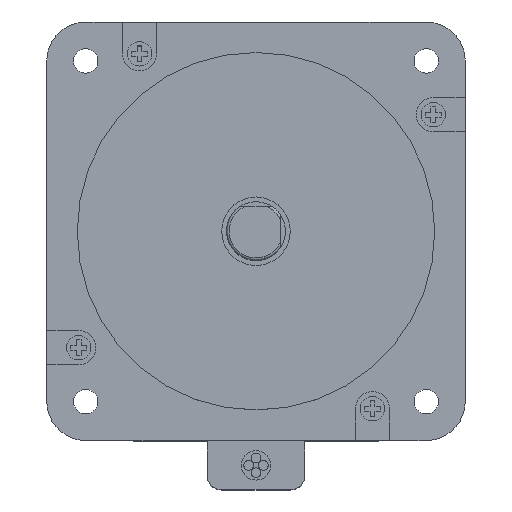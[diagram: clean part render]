
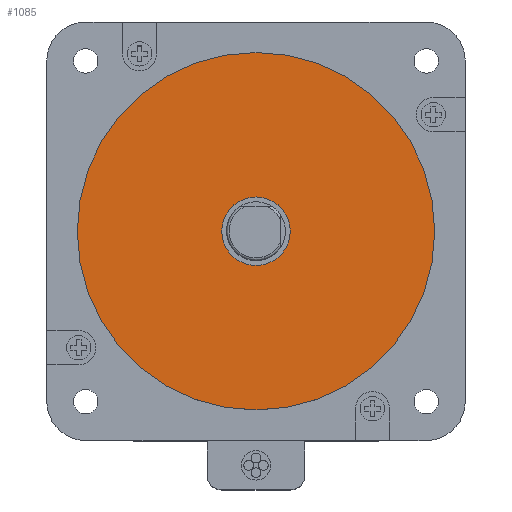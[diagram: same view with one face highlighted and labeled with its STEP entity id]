
A CAD part, top view. The second image highlights one B-rep face of the part: STEP entity #1085.
In plain terms, the highlighted planar face has unit normal (0, 0, 1).
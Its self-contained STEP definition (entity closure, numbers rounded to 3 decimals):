
#1085=ADVANCED_FACE('',(#1432,#1433),#1279,.T.);
#1279=PLANE('',#3849);
#1432=FACE_BOUND('',#1521,.T.);
#1433=FACE_BOUND('',#1522,.T.);
#1521=EDGE_LOOP('',(#2026));
#1522=EDGE_LOOP('',(#2027));
#2026=ORIENTED_EDGE('',*,*,#3356,.T.);
#2027=ORIENTED_EDGE('',*,*,#3357,.T.);
#2988=VERTEX_POINT('',#5636);
#2989=VERTEX_POINT('',#5639);
#3356=EDGE_CURVE('',#2988,#2988,#3692,.T.);
#3357=EDGE_CURVE('',#2989,#2989,#3693,.T.);
#3692=CIRCLE('',#3844,36.513);
#3693=CIRCLE('',#3846,7.);
#3844=AXIS2_PLACEMENT_3D('',#5635,#4480,#4481);
#3846=AXIS2_PLACEMENT_3D('',#5638,#4484,#4485);
#3849=AXIS2_PLACEMENT_3D('',#5643,#4490,#4491);
#4480=DIRECTION('',(0.,0.,1.));
#4481=DIRECTION('',(1.,0.,0.));
#4484=DIRECTION('',(0.,0.,-1.));
#4485=DIRECTION('',(1.,0.,0.));
#4490=DIRECTION('',(0.,0.,1.));
#4491=DIRECTION('',(1.,0.,0.));
#5635=CARTESIAN_POINT('',(0.,0.,2.));
#5636=CARTESIAN_POINT('',(36.513,0.,2.));
#5638=CARTESIAN_POINT('',(0.,0.,2.));
#5639=CARTESIAN_POINT('',(7.,0.,2.));
#5643=CARTESIAN_POINT('',(0.,0.,2.));
